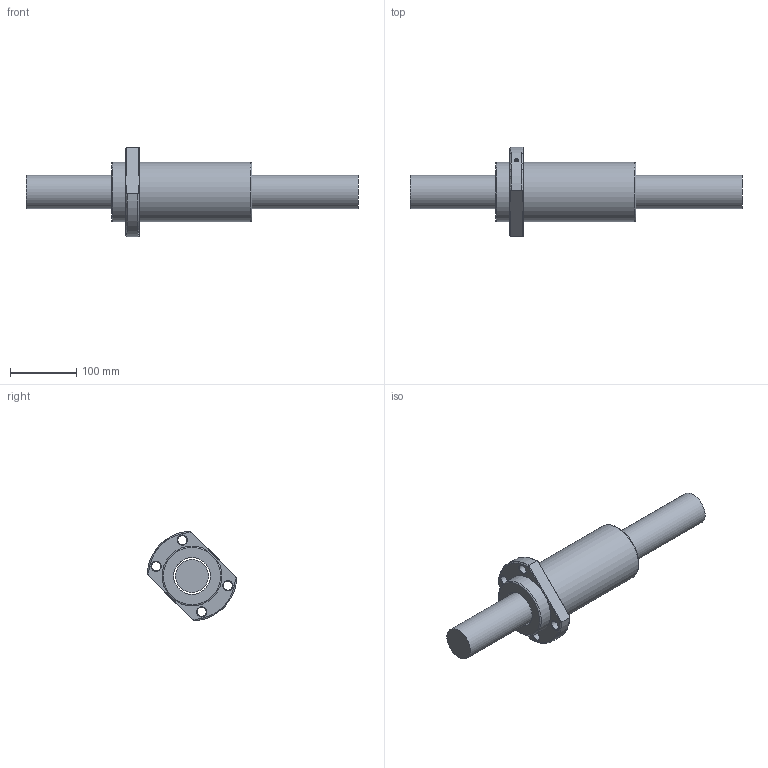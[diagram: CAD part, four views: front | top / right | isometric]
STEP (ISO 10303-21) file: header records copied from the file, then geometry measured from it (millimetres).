
FILE_DESCRIPTION (( 'STEP AP203' ), '1' );
FILE_NAME ('SFY050100-3.6.step', '2024-05-21T08:56:24', ( '' ), ( '' ), 'SwSTEP 2.0', 'SolidWorks 2022', '' );
FILE_SCHEMA (( 'CONFIG_CONTROL_DESIGN' ));
Length unit declared in the file: millimetre
Products named in the file (1): SFY050100-3.6
Bounding box: 500 x 134.91 x 134.91 mm (x, y, z)
Volume: 1907258 mm3; surface area: 200688.2 mm2
Topology: 2 solids, 2 shells, 51 faces, 127 edges, 82 vertices
Faces by surface type: cylinder 18, plane 13, cone 9, torus 6, bspline 5
Full cylindrical faces by diameter (mm): 4 x1, 5 x6, 14 x4, 50 x1, 55.1 x1, 90 x2
Entity records: 3025 total; most frequent: CARTESIAN_POINT 2064, DIRECTION 170, ORIENTED_EDGE 156, EDGE_LOOP 80, EDGE_CURVE 78, AXIS2_PLACEMENT_3D 77, VERTEX_POINT 62, FACE_OUTER_BOUND 57
